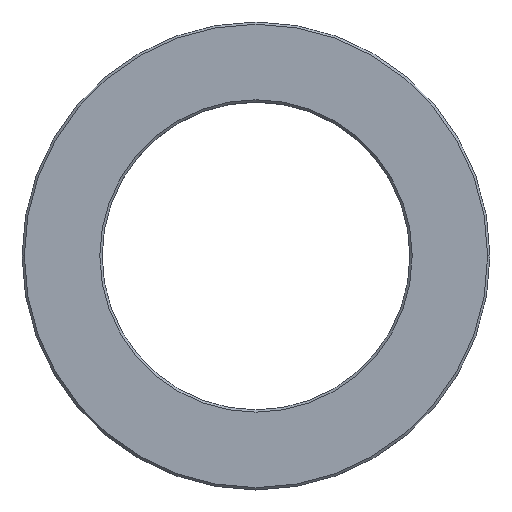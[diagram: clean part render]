
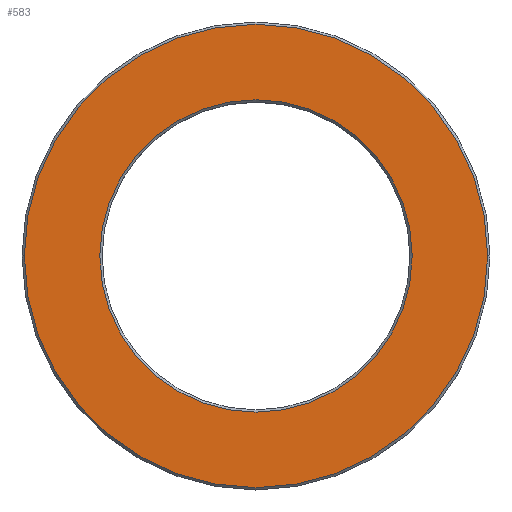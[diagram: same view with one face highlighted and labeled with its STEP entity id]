
A CAD part, top view. The second image highlights one B-rep face of the part: STEP entity #583.
In plain terms, the highlighted planar face has unit normal (0, 0, 1).
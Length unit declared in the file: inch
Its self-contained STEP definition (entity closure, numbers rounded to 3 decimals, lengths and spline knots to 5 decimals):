
#31 = VERTEX_POINT ( 'NONE', #269 ) ;
#35 = ORIENTED_EDGE ( 'NONE', *, *, #301, .T. ) ;
#98 = CARTESIAN_POINT ( 'NONE',  ( 0., 0., 0.21654 ) ) ;
#140 = AXIS2_PLACEMENT_3D ( 'NONE', #98, #147, #349 ) ;
#142 = DIRECTION ( 'NONE',  ( -1., 0., 0. ) ) ;
#147 = DIRECTION ( 'NONE',  ( 0., 0., -1. ) ) ;
#157 = AXIS2_PLACEMENT_3D ( 'NONE', #420, #403, #456 ) ;
#167 = VERTEX_POINT ( 'NONE', #324 ) ;
#176 = CARTESIAN_POINT ( 'NONE',  ( -1.0075, 0., 0.21654 ) ) ;
#180 = DIRECTION ( 'NONE',  ( 0., 0., -1. ) ) ;
#192 = DIRECTION ( 'NONE',  ( -1., 0., 0. ) ) ;
#198 = DIRECTION ( 'NONE',  ( -1., 0., 0. ) ) ;
#217 = AXIS2_PLACEMENT_3D ( 'NONE', #333, #180, #192 ) ;
#260 = CARTESIAN_POINT ( 'NONE',  ( 0., 0., 0.21654 ) ) ;
#268 = EDGE_CURVE ( 'NONE', #31, #621, #506, .T. ) ;
#269 = CARTESIAN_POINT ( 'NONE',  ( -0.67929, 0., 0.21654 ) ) ;
#274 = CIRCLE ( 'NONE', #140, 0.67929 ) ;
#289 = FACE_OUTER_BOUND ( 'NONE', #388, .T. ) ;
#293 = ORIENTED_EDGE ( 'NONE', *, *, #452, .T. ) ;
#301 = EDGE_CURVE ( 'NONE', #167, #478, #586, .T. ) ;
#316 = EDGE_LOOP ( 'NONE', ( #602, #377 ) ) ;
#324 = CARTESIAN_POINT ( 'NONE',  ( 1.0075, 0., 0.21654 ) ) ;
#333 = CARTESIAN_POINT ( 'NONE',  ( 0., 0.66929, 0.21654 ) ) ;
#349 = DIRECTION ( 'NONE',  ( -1., 0., 0. ) ) ;
#353 = EDGE_CURVE ( 'NONE', #621, #31, #274, .T. ) ;
#371 = CIRCLE ( 'NONE', #157, 1.0075 ) ;
#377 = ORIENTED_EDGE ( 'NONE', *, *, #268, .T. ) ;
#388 = EDGE_LOOP ( 'NONE', ( #293, #35 ) ) ;
#403 = DIRECTION ( 'NONE',  ( 0., 0., 1. ) ) ;
#420 = CARTESIAN_POINT ( 'NONE',  ( 0., 0., 0.21654 ) ) ;
#436 = DIRECTION ( 'NONE',  ( 0., 0., 1. ) ) ;
#437 = FACE_BOUND ( 'NONE', #316, .T. ) ;
#438 = DIRECTION ( 'NONE',  ( 0., 0., -1. ) ) ;
#452 = EDGE_CURVE ( 'NONE', #478, #167, #371, .T. ) ;
#456 = DIRECTION ( 'NONE',  ( -1., 0., 0. ) ) ;
#463 = AXIS2_PLACEMENT_3D ( 'NONE', #532, #436, #142 ) ;
#478 = VERTEX_POINT ( 'NONE', #176 ) ;
#506 = CIRCLE ( 'NONE', #528, 0.67929 ) ;
#528 = AXIS2_PLACEMENT_3D ( 'NONE', #260, #438, #198 ) ;
#532 = CARTESIAN_POINT ( 'NONE',  ( 0., 0., 0.21654 ) ) ;
#542 = CARTESIAN_POINT ( 'NONE',  ( 0.67929, 0., 0.21654 ) ) ;
#583 = ADVANCED_FACE ( 'NONE', ( #289, #437 ), #629, .F. ) ;
#586 = CIRCLE ( 'NONE', #463, 1.0075 ) ;
#602 = ORIENTED_EDGE ( 'NONE', *, *, #353, .T. ) ;
#621 = VERTEX_POINT ( 'NONE', #542 ) ;
#629 = PLANE ( 'NONE',  #217 ) ;
